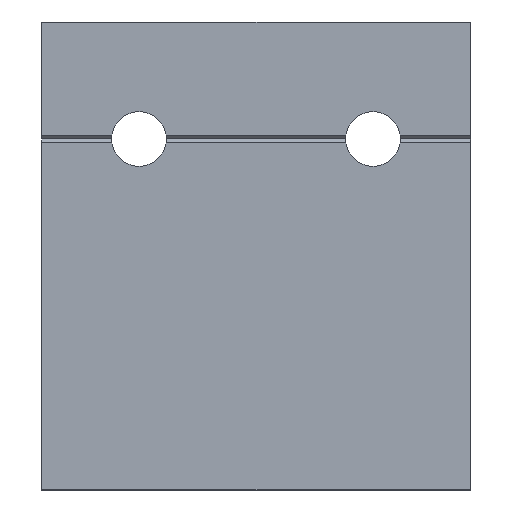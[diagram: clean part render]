
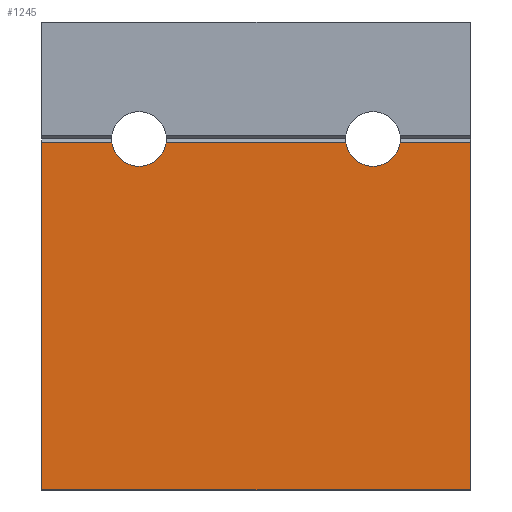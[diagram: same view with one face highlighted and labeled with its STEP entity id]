
A CAD part, left-side view. The second image highlights one B-rep face of the part: STEP entity #1245.
In plain terms, the highlighted planar face has unit normal (-1, 0, 0).
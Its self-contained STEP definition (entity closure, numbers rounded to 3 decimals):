
#88=CIRCLE('',#1366,3.5);
#89=CIRCLE('',#1367,3.5);
#253=ORIENTED_EDGE('',*,*,#605,.F.);
#254=ORIENTED_EDGE('',*,*,#606,.T.);
#255=ORIENTED_EDGE('',*,*,#586,.F.);
#256=ORIENTED_EDGE('',*,*,#598,.F.);
#257=ORIENTED_EDGE('',*,*,#607,.T.);
#258=ORIENTED_EDGE('',*,*,#558,.T.);
#259=ORIENTED_EDGE('',*,*,#608,.F.);
#260=ORIENTED_EDGE('',*,*,#537,.T.);
#537=EDGE_CURVE('',#723,#721,#833,.T.);
#558=EDGE_CURVE('',#737,#735,#843,.T.);
#586=EDGE_CURVE('',#762,#763,#861,.T.);
#598=EDGE_CURVE('',#767,#762,#869,.T.);
#605=EDGE_CURVE('',#771,#721,#88,.T.);
#606=EDGE_CURVE('',#771,#763,#874,.T.);
#607=EDGE_CURVE('',#767,#737,#875,.T.);
#608=EDGE_CURVE('',#723,#735,#89,.T.);
#721=VERTEX_POINT('',#1928);
#723=VERTEX_POINT('',#1931);
#735=VERTEX_POINT('',#1970);
#737=VERTEX_POINT('',#1973);
#762=VERTEX_POINT('',#2027);
#763=VERTEX_POINT('',#2029);
#767=VERTEX_POINT('',#2045);
#771=VERTEX_POINT('',#2059);
#833=LINE('',#1930,#954);
#843=LINE('',#1972,#964);
#861=LINE('',#2028,#982);
#869=LINE('',#2046,#990);
#874=LINE('',#2060,#995);
#875=LINE('',#2061,#996);
#954=VECTOR('',#1527,1000.);
#964=VECTOR('',#1573,1000.);
#982=VECTOR('',#1615,1000.);
#990=VECTOR('',#1633,1000.);
#995=VECTOR('',#1648,1000.);
#996=VECTOR('',#1649,1000.);
#1062=EDGE_LOOP('',(#253,#254,#255,#256,#257,#258,#259,#260));
#1131=FACE_BOUND('',#1062,.T.);
#1198=PLANE('',#1365);
#1245=ADVANCED_FACE('',(#1131),#1198,.T.);
#1365=AXIS2_PLACEMENT_3D('',#2057,#1644,#1645);
#1366=AXIS2_PLACEMENT_3D('',#2058,#1646,#1647);
#1367=AXIS2_PLACEMENT_3D('',#2062,#1650,#1651);
#1527=DIRECTION('',(0.,1.,0.));
#1573=DIRECTION('',(0.,1.,0.));
#1615=DIRECTION('',(0.,0.,1.));
#1633=DIRECTION('',(0.,1.,0.));
#1644=DIRECTION('',(-1.,0.,0.));
#1645=DIRECTION('',(0.,0.,1.));
#1646=DIRECTION('',(-1.,0.,0.));
#1647=DIRECTION('',(0.,0.,1.));
#1648=DIRECTION('',(0.,1.,0.));
#1649=DIRECTION('',(0.,0.,1.));
#1650=DIRECTION('',(-1.,0.,0.));
#1651=DIRECTION('',(0.,0.,1.));
#1928=CARTESIAN_POINT('',(0.,11.536,44.5));
#1930=CARTESIAN_POINT('',(0.,-27.5,44.5));
#1931=CARTESIAN_POINT('',(0.,-11.536,44.5));
#1970=CARTESIAN_POINT('',(0.,-18.464,44.5));
#1972=CARTESIAN_POINT('',(0.,-27.5,44.5));
#1973=CARTESIAN_POINT('',(0.,-27.5,44.5));
#2027=CARTESIAN_POINT('',(0.,27.5,0.));
#2028=CARTESIAN_POINT('',(0.,27.5,0.));
#2029=CARTESIAN_POINT('',(0.,27.5,44.5));
#2045=CARTESIAN_POINT('',(0.,-27.5,0.));
#2046=CARTESIAN_POINT('',(0.,-27.5,0.));
#2057=CARTESIAN_POINT('',(0.,-27.5,0.));
#2058=CARTESIAN_POINT('',(0.,15.,45.));
#2059=CARTESIAN_POINT('',(0.,18.464,44.5));
#2060=CARTESIAN_POINT('',(0.,-27.5,44.5));
#2061=CARTESIAN_POINT('',(0.,-27.5,0.));
#2062=CARTESIAN_POINT('',(0.,-15.,45.));
